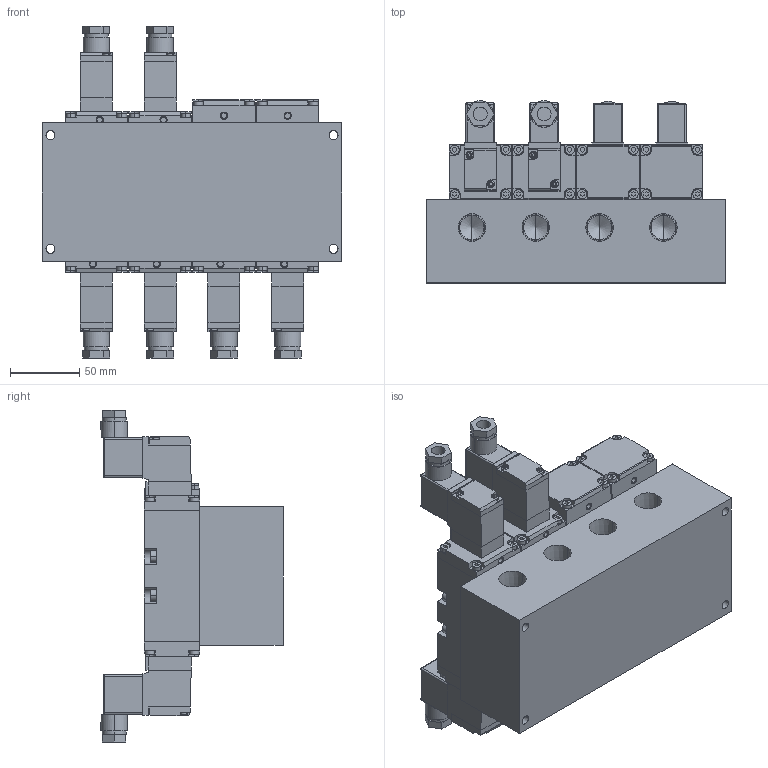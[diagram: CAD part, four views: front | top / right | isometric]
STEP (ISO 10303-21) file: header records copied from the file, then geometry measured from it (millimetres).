
FILE_DESCRIPTION (( 'STEP AP203' ), '1' );
FILE_NAME ('MF#-PK80.STEP', '2016-06-16T02:14:43', ( '' ), ( '' ), 'SwSTEP 2.0', 'SolidWorks 2014', '' );
FILE_SCHEMA (( 'CONFIG_CONTROL_DESIGN' ));
Length unit declared in the file: millimetre
Products named in the file (29): PILOT_BODY_9; PILOT_BODY_1; ADAPTER_SV400_1_4; COIL_ASM_D_5; PKD2480-04-#-D; PILOT_COVER_9; ADAPTER_SV400_9; PILOT_BODY; COIL_ASM_D_3; END_COVER_SV400; PILOT_COVER; PILOT_BODY_1_4; PKD(E)(O)3480-04-#-D; PKS2480-04-#-D; BODY_SV400_4; PILOT_COVER_5; ADAPTER_SV400_1; PILOT_BODY_5; COIL_ASM_D; BODY_SV400; MF-1; ADAPTER_SV400_5; PILOT_COVER_1_4; ADAPTER_SV400; MF#-PK80; COIL_ASM_D_1; PILOT_COVER_1; COIL_ASM_D_1_2; BODY_SV400_8
Assembly tree (29 placements, depth 3):
  MF#-PK80
    MF-1
    PKD(E)(O)3480-04-#-D
      ADAPTER_SV400
      ADAPTER_SV400_1
      BODY_SV400
      COIL_ASM_D
      COIL_ASM_D_1
      PILOT_BODY
      PILOT_BODY_1
      PILOT_COVER
      PILOT_COVER_1
    PKD2480-04-#-D
      ADAPTER_SV400_5
      ADAPTER_SV400_1_4
      BODY_SV400_4
      COIL_ASM_D_3
      COIL_ASM_D_1_2
      PILOT_BODY_5
      PILOT_BODY_1_4
      PILOT_COVER_5
      PILOT_COVER_1_4
    PKS2480-04-#-D  x2
      ADAPTER_SV400_9
      BODY_SV400_8
      COIL_ASM_D_5
      END_COVER_SV400
      PILOT_BODY_9
      PILOT_COVER_9
Bounding box: 216 x 131.22 x 239.3 mm (x, y, z)
Volume: 2416675.8 mm3; surface area: 313734.5 mm2
Topology: 31 solids, 31 shells, 1715 faces, 4300 edges, 2793 vertices
Faces by surface type: plane 1195, cylinder 416, cone 44, torus 36, bspline 24
Entity records: 44818 total; most frequent: CARTESIAN_POINT 8260, DIRECTION 7001, ORIENTED_EDGE 6848, EDGE_CURVE 3424, LINE 2499, VECTOR 2499, AXIS2_PLACEMENT_3D 2251, VERTEX_POINT 2230
